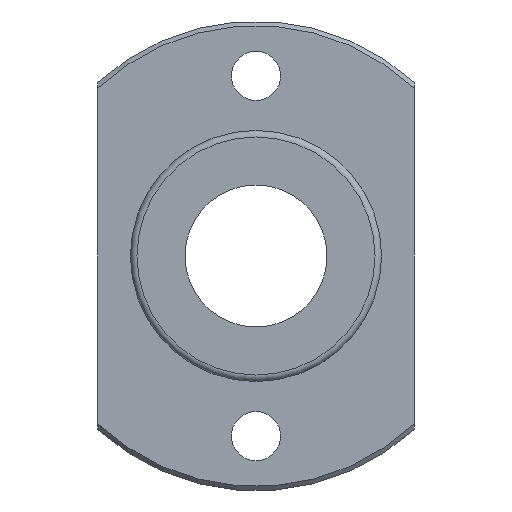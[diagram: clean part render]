
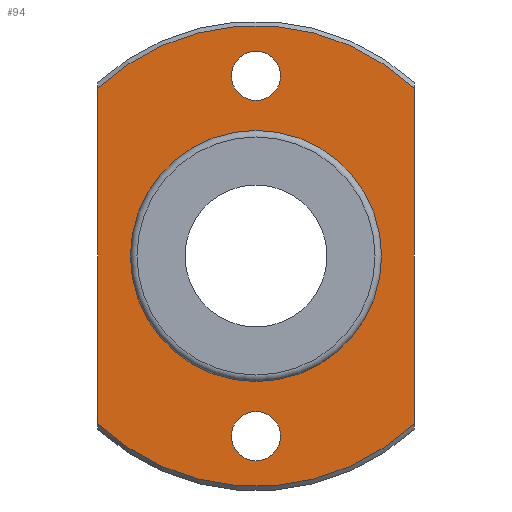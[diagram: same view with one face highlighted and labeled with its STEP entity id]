
A CAD part, left-side view. The second image highlights one B-rep face of the part: STEP entity #94.
In plain terms, the highlighted planar face has unit normal (-1, 0, 0).
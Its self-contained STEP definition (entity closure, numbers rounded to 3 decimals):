
#94=ADVANCED_FACE('',(#151,#152,#153,#154),#155,.T.);
#151=FACE_BOUND('',#213,.T.);
#152=FACE_BOUND('',#214,.T.);
#153=FACE_BOUND('',#215,.T.);
#154=FACE_OUTER_BOUND('',#216,.T.);
#155=PLANE('',#217);
#213=EDGE_LOOP('',(#342));
#214=EDGE_LOOP('',(#343));
#215=EDGE_LOOP('',(#344));
#216=EDGE_LOOP('',(#345,#346,#347,#348));
#217=AXIS2_PLACEMENT_3D('',#349,#350,#351);
#342=ORIENTED_EDGE('',*,*,#403,.F.);
#343=ORIENTED_EDGE('',*,*,#397,.T.);
#344=ORIENTED_EDGE('',*,*,#391,.T.);
#345=ORIENTED_EDGE('',*,*,#376,.T.);
#346=ORIENTED_EDGE('',*,*,#399,.T.);
#347=ORIENTED_EDGE('',*,*,#404,.T.);
#348=ORIENTED_EDGE('',*,*,#366,.T.);
#349=CARTESIAN_POINT('',(-6.0,16.125,0.0));
#350=DIRECTION('',(-1.0,0.0,0.));
#351=DIRECTION('',(0.,0.0,1.0));
#366=EDGE_CURVE('',#405,#406,#407,.T.);
#376=EDGE_CURVE('',#406,#423,#425,.T.);
#391=EDGE_CURVE('',#451,#451,#452,.T.);
#397=EDGE_CURVE('',#462,#462,#463,.T.);
#399=EDGE_CURVE('',#423,#466,#467,.T.);
#403=EDGE_CURVE('',#472,#472,#473,.T.);
#404=EDGE_CURVE('',#466,#405,#474,.T.);
#405=VERTEX_POINT('',#475);
#406=VERTEX_POINT('',#476);
#407=LINE('',#477,#478);
#423=VERTEX_POINT('',#509);
#425=CIRCLE('',#514,21.1);
#451=VERTEX_POINT('',#545);
#452=CIRCLE('',#546,2.25);
#462=VERTEX_POINT('',#557);
#463=CIRCLE('',#558,2.25);
#466=VERTEX_POINT('',#561);
#467=LINE('',#562,#563);
#472=VERTEX_POINT('',#574);
#473=CIRCLE('',#575,11.15);
#474=CIRCLE('',#576,21.1);
#475=CARTESIAN_POINT('',(-6.0,14.5,15.328));
#476=CARTESIAN_POINT('',(-6.0,14.5,-15.328));
#477=CARTESIAN_POINT('',(-6.0,14.5,0.0));
#478=VECTOR('',#577,1.0);
#509=CARTESIAN_POINT('',(-6.0,-14.5,-15.328));
#514=AXIS2_PLACEMENT_3D('',#584,#585,#586);
#545=CARTESIAN_POINT('',(-6.0,0.0,-14.25));
#546=AXIS2_PLACEMENT_3D('',#622,#623,#624);
#557=CARTESIAN_POINT('',(-6.0,0.0,18.75));
#558=AXIS2_PLACEMENT_3D('',#638,#639,#640);
#561=CARTESIAN_POINT('',(-6.0,-14.5,15.328));
#562=CARTESIAN_POINT('',(-6.0,-14.5,0.0));
#563=VECTOR('',#644,1.0);
#574=CARTESIAN_POINT('',(-6.0,11.15,0.0));
#575=AXIS2_PLACEMENT_3D('',#648,#649,#650);
#576=AXIS2_PLACEMENT_3D('',#651,#652,#653);
#577=DIRECTION('',(0.,0.0,-1.0));
#584=CARTESIAN_POINT('',(-6.0,0.0,0.0));
#585=DIRECTION('',(-1.0,0.0,0.));
#586=DIRECTION('',(0.0,1.0,0.0));
#622=CARTESIAN_POINT('',(-6.0,0.0,-16.5));
#623=DIRECTION('',(1.0,0.0,0.));
#624=DIRECTION('',(0.,0.0,-1.0));
#638=CARTESIAN_POINT('',(-6.0,0.0,16.5));
#639=DIRECTION('',(1.0,0.0,0.));
#640=DIRECTION('',(0.,0.0,-1.0));
#644=DIRECTION('',(0.,0.0,1.0));
#648=CARTESIAN_POINT('',(-6.0,0.0,0.0));
#649=DIRECTION('',(-1.0,0.0,0.));
#650=DIRECTION('',(0.0,1.0,0.0));
#651=CARTESIAN_POINT('',(-6.0,0.0,0.0));
#652=DIRECTION('',(-1.0,0.0,0.));
#653=DIRECTION('',(0.0,1.0,0.0));
